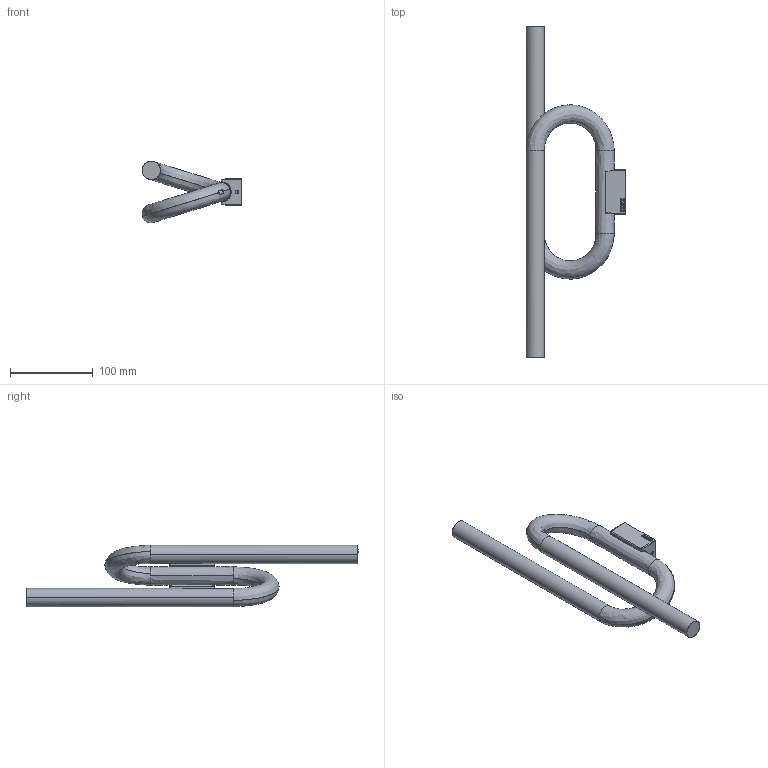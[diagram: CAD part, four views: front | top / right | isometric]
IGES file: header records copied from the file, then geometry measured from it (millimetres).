
Start section: SolidWorks IGES file using analytic representation for surfaces
Global section: file name: F:\foscarini\RS\0_ 3D-2D\FOSCARINI\CATALOGO\TOBIA\3d (3ds,dxf,stp,igs)\SOLIDWORKS\TOBIA_parete_spina.IGS; native system: SolidWorks 2020; preprocessor: SolidWorks 2020; author: m.tonasso; date: 200317.110711; units: millimetre
Bounding box: 120 x 400 x 74 mm (x, y, z)
Surface area: 65735.8 mm2 (no closed solid volume)
Topology: 0 solids, 0 shells, 176 faces, 1539 edges, 1531 vertices
Faces by surface type: bspline 139, revolution 37
